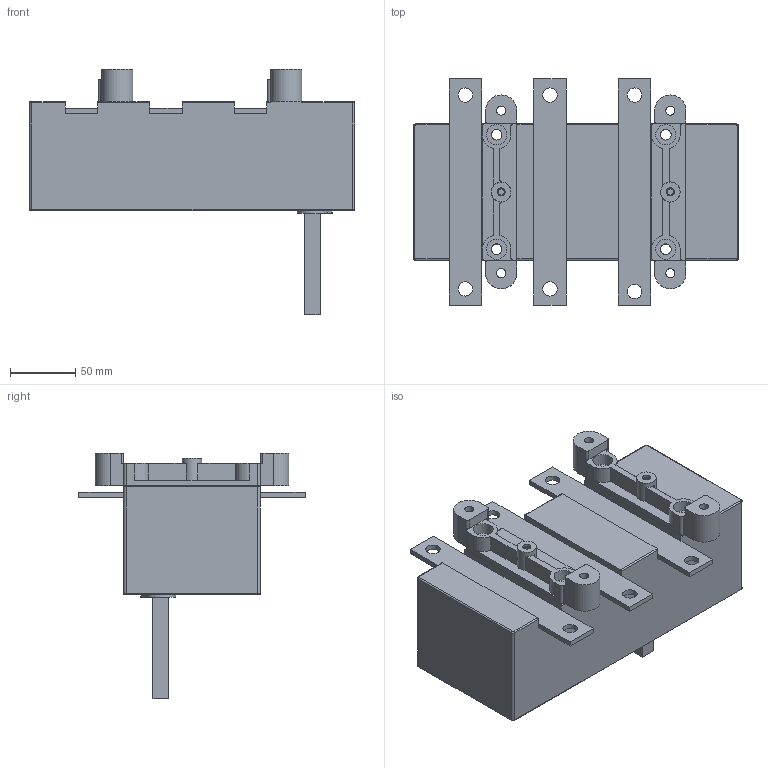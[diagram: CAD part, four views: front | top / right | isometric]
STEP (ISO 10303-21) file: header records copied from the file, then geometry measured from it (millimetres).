
FILE_DESCRIPTION(/* description */ (''),/* implementation_level */ '2;1');
FILE_NAME(/* name */ 'RA400 P3.stp',/* time_stamp */ '2021-08-18T13:31:24+02:00',/* author */ (''),/* organization */ (''),/* preprocessor_version */ 'ST-DEVELOPER v18.1',/* originating_system */ 'SIEMENS PLM Software NX 1965',/* authorisation */ '');
FILE_SCHEMA (('AUTOMOTIVE_DESIGN { 1 0 10303 214 3 1 1 1 }'));
Length unit declared in the file: millimetre
Products named in the file (1): RA400_P3
Bounding box: 250 x 174 x 189 mm (x, y, z)
Volume: 2258277.6 mm3; surface area: 162941.5 mm2
Topology: 1 solids, 1 shells, 200 faces, 522 edges, 341 vertices
Faces by surface type: plane 108, cylinder 84, bspline 8
Full cylindrical faces by diameter (mm): 4.8 x2, 6.2 x2, 7 x4, 8.2 x4, 11 x6, 14 x4, 15 x2, 15.5 x4
Entity records: 6186 total; most frequent: CARTESIAN_POINT 1178, DIRECTION 1056, ORIENTED_EDGE 980, EDGE_CURVE 490, AXIS2_PLACEMENT_3D 375, VERTEX_POINT 334, LINE 306, VECTOR 306
